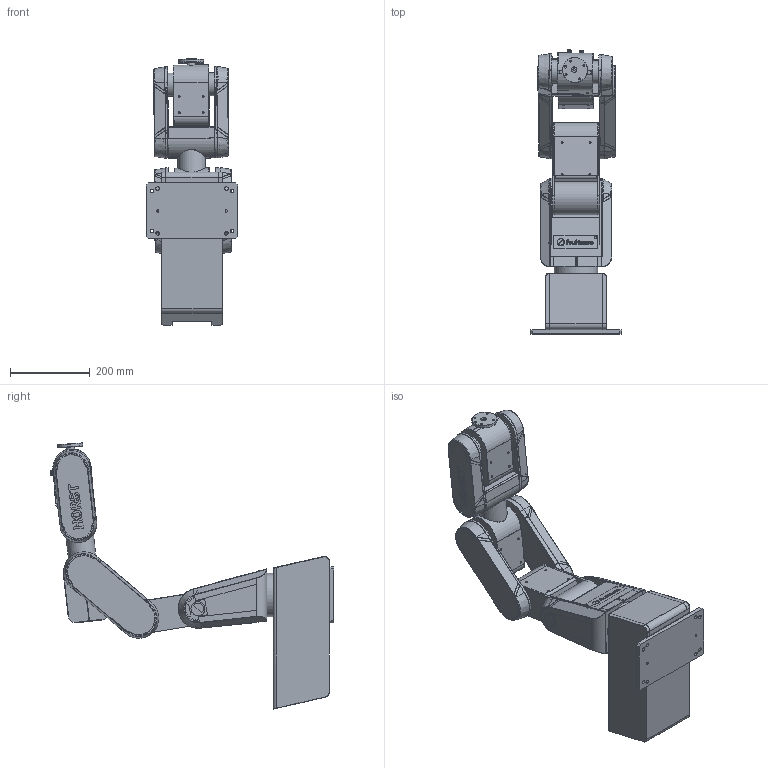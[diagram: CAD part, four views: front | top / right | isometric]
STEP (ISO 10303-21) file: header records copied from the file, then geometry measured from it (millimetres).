
FILE_DESCRIPTION (( 'STEP AP214' ), '1' );
FILE_NAME ('fru_HORST600_2021_01.STEP', '2024-07-15T08:07:46', ( '' ), ( '' ), 'SwSTEP 2.0', 'SolidWorks 2019', '' );
FILE_SCHEMA (( 'AUTOMOTIVE_DESIGN' ));
Length unit declared in the file: millimetre
Products named in the file (8): fru_HORST600_2021_01; Schwenkarm_2021_01; Sockel1_2024_01; Flansch_2021_01; Sockel2_2021_01; Tragarm2_2021_01; Tragarm1_2021_01; Tragarm3_2021_01
Assembly tree (7 placements, depth 2):
  fru_HORST600_2021_01
    Sockel1_2024_01
    Sockel2_2021_01
    Schwenkarm_2021_01
    Tragarm1_2021_01
    Tragarm2_2021_01
    Tragarm3_2021_01
    Flansch_2021_01
Bounding box: 228 x 710.19 x 666.09 mm (x, y, z)
Volume: 3611715.1 mm3; surface area: 2189619.3 mm2
Topology: 78 solids, 79 shells, 3758 faces, 9706 edges, 6196 vertices
Faces by surface type: plane 1778, cylinder 1228, bspline 605, cone 119, torus 24, sphere 4
Full cylindrical faces by diameter (mm): 1.5 x8, 2 x1, 2.1 x1, 3.3 x2, 3.5 x22, 4 x30, 4.2 x4, 5 x66, 6 x7, 6.6 x1, 7.5 x8, 9 x8, 11 x2, 16.5 x2, 20 x1, 41 x1, 58 x2, 63 x1, 69 x1, 84 x1, 100 x1, 109 x1
Entity records: 187642 total; most frequent: CARTESIAN_POINT 76849, ORIENTED_EDGE 18878, DIRECTION 16460, EDGE_CURVE 9439, VERTEX_POINT 6169, AXIS2_PLACEMENT_3D 5512, VECTOR 5436, LINE 5436
